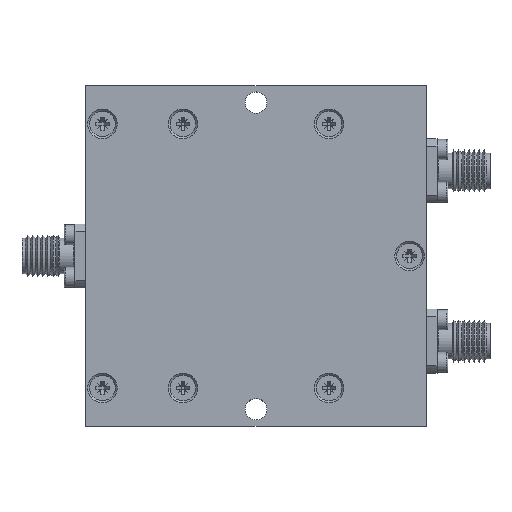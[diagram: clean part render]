
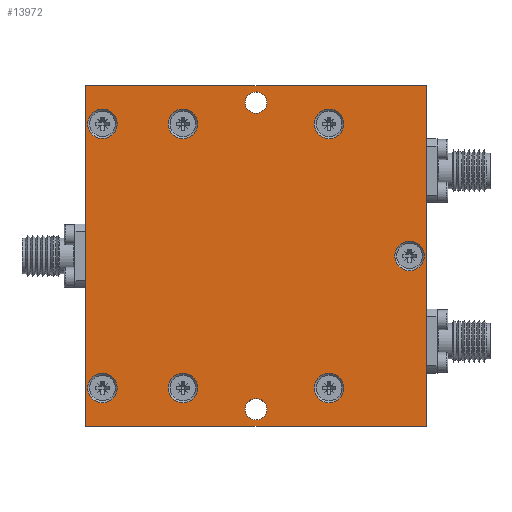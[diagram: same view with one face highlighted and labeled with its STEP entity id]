
A CAD part, top view. The second image highlights one B-rep face of the part: STEP entity #13972.
In plain terms, the highlighted planar face has unit normal (0, 0, 1).
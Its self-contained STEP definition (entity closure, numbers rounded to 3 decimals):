
#348=LINE('',#19312,#1140);
#349=LINE('',#19315,#1141);
#350=LINE('',#19317,#1142);
#351=LINE('',#19319,#1143);
#1140=VECTOR('',#16432,1000.);
#1141=VECTOR('',#16433,1000.);
#1142=VECTOR('',#16434,1000.);
#1143=VECTOR('',#16435,1000.);
#1975=PLANE('',#14830);
#3191=ORIENTED_EDGE('',*,*,#5191,.T.);
#3192=ORIENTED_EDGE('',*,*,#5192,.T.);
#3193=ORIENTED_EDGE('',*,*,#5193,.T.);
#3194=ORIENTED_EDGE('',*,*,#5194,.T.);
#3195=ORIENTED_EDGE('',*,*,#5190,.T.);
#3196=ORIENTED_EDGE('',*,*,#5188,.T.);
#3197=ORIENTED_EDGE('',*,*,#5186,.T.);
#3198=ORIENTED_EDGE('',*,*,#5184,.T.);
#3199=ORIENTED_EDGE('',*,*,#5182,.T.);
#3200=ORIENTED_EDGE('',*,*,#5180,.T.);
#3201=ORIENTED_EDGE('',*,*,#5178,.T.);
#3202=ORIENTED_EDGE('',*,*,#5195,.F.);
#3203=ORIENTED_EDGE('',*,*,#5196,.F.);
#5178=EDGE_CURVE('',#6295,#6295,#7044,.T.);
#5180=EDGE_CURVE('',#6297,#6297,#7046,.T.);
#5182=EDGE_CURVE('',#6299,#6299,#7048,.T.);
#5184=EDGE_CURVE('',#6301,#6301,#7050,.T.);
#5186=EDGE_CURVE('',#6303,#6303,#7052,.T.);
#5188=EDGE_CURVE('',#6305,#6305,#7054,.T.);
#5190=EDGE_CURVE('',#6307,#6307,#7056,.T.);
#5191=EDGE_CURVE('',#6308,#6309,#348,.T.);
#5192=EDGE_CURVE('',#6309,#6310,#349,.T.);
#5193=EDGE_CURVE('',#6310,#6311,#350,.T.);
#5194=EDGE_CURVE('',#6311,#6308,#351,.T.);
#5195=EDGE_CURVE('',#6312,#6312,#7057,.T.);
#5196=EDGE_CURVE('',#6313,#6313,#7058,.T.);
#6295=VERTEX_POINT('',#19280);
#6297=VERTEX_POINT('',#19285);
#6299=VERTEX_POINT('',#19290);
#6301=VERTEX_POINT('',#19295);
#6303=VERTEX_POINT('',#19300);
#6305=VERTEX_POINT('',#19305);
#6307=VERTEX_POINT('',#19310);
#6308=VERTEX_POINT('',#19313);
#6309=VERTEX_POINT('',#19314);
#6310=VERTEX_POINT('',#19316);
#6311=VERTEX_POINT('',#19318);
#6312=VERTEX_POINT('',#19321);
#6313=VERTEX_POINT('',#19323);
#7044=CIRCLE('',#14811,2.2);
#7046=CIRCLE('',#14814,2.2);
#7048=CIRCLE('',#14817,2.2);
#7050=CIRCLE('',#14820,2.2);
#7052=CIRCLE('',#14823,2.2);
#7054=CIRCLE('',#14826,2.2);
#7056=CIRCLE('',#14829,2.2);
#7057=CIRCLE('',#14831,1.6);
#7058=CIRCLE('',#14832,1.6);
#7625=EDGE_LOOP('',(#3191,#3192,#3193,#3194));
#7626=EDGE_LOOP('',(#3195));
#7627=EDGE_LOOP('',(#3196));
#7628=EDGE_LOOP('',(#3197));
#7629=EDGE_LOOP('',(#3198));
#7630=EDGE_LOOP('',(#3199));
#7631=EDGE_LOOP('',(#3200));
#7632=EDGE_LOOP('',(#3201));
#7633=EDGE_LOOP('',(#3202));
#7634=EDGE_LOOP('',(#3203));
#8605=FACE_BOUND('',#7625,.T.);
#8606=FACE_BOUND('',#7626,.T.);
#8607=FACE_BOUND('',#7627,.T.);
#8608=FACE_BOUND('',#7628,.T.);
#8609=FACE_BOUND('',#7629,.T.);
#8610=FACE_BOUND('',#7630,.T.);
#8611=FACE_BOUND('',#7631,.T.);
#8612=FACE_BOUND('',#7632,.T.);
#8613=FACE_BOUND('',#7633,.T.);
#8614=FACE_BOUND('',#7634,.T.);
#13972=ADVANCED_FACE('',(#8605,#8606,#8607,#8608,#8609,#8610,#8611,#8612,
#8613,#8614),#1975,.T.);
#14811=AXIS2_PLACEMENT_3D('',#19279,#16392,#16393);
#14814=AXIS2_PLACEMENT_3D('',#19284,#16398,#16399);
#14817=AXIS2_PLACEMENT_3D('',#19289,#16404,#16405);
#14820=AXIS2_PLACEMENT_3D('',#19294,#16410,#16411);
#14823=AXIS2_PLACEMENT_3D('',#19299,#16416,#16417);
#14826=AXIS2_PLACEMENT_3D('',#19304,#16422,#16423);
#14829=AXIS2_PLACEMENT_3D('',#19309,#16428,#16429);
#14830=AXIS2_PLACEMENT_3D('',#19311,#16430,#16431);
#14831=AXIS2_PLACEMENT_3D('',#19320,#16436,#16437);
#14832=AXIS2_PLACEMENT_3D('',#19322,#16438,#16439);
#16392=DIRECTION('',(0.,0.,-1.));
#16393=DIRECTION('',(0.,1.,0.));
#16398=DIRECTION('',(0.,0.,-1.));
#16399=DIRECTION('',(0.,1.,0.));
#16404=DIRECTION('',(0.,0.,-1.));
#16405=DIRECTION('',(0.,1.,0.));
#16410=DIRECTION('',(0.,0.,-1.));
#16411=DIRECTION('',(0.,1.,0.));
#16416=DIRECTION('',(0.,0.,-1.));
#16417=DIRECTION('',(0.,1.,0.));
#16422=DIRECTION('',(0.,0.,-1.));
#16423=DIRECTION('',(0.,1.,0.));
#16428=DIRECTION('',(0.,0.,-1.));
#16429=DIRECTION('',(0.,1.,0.));
#16430=DIRECTION('',(0.,0.,1.));
#16431=DIRECTION('',(1.,0.,0.));
#16432=DIRECTION('',(0.,1.,0.));
#16433=DIRECTION('',(-1.,0.,0.));
#16434=DIRECTION('',(0.,-1.,0.));
#16435=DIRECTION('',(1.,0.,0.));
#16436=DIRECTION('',(0.,0.,1.));
#16437=DIRECTION('',(1.,0.,0.));
#16438=DIRECTION('',(0.,0.,1.));
#16439=DIRECTION('',(1.,0.,0.));
#19279=CARTESIAN_POINT('',(-22.9,-19.7,6.286));
#19280=CARTESIAN_POINT('',(-22.9,-17.5,6.286));
#19284=CARTESIAN_POINT('',(-10.9,-19.7,6.286));
#19285=CARTESIAN_POINT('',(-10.9,-17.5,6.286));
#19289=CARTESIAN_POINT('',(10.9,-19.7,6.286));
#19290=CARTESIAN_POINT('',(10.9,-17.5,6.286));
#19294=CARTESIAN_POINT('',(22.9,0.,6.286));
#19295=CARTESIAN_POINT('',(22.9,2.2,6.286));
#19299=CARTESIAN_POINT('',(10.9,19.7,6.286));
#19300=CARTESIAN_POINT('',(10.9,21.9,6.286));
#19304=CARTESIAN_POINT('',(-10.9,19.7,6.286));
#19305=CARTESIAN_POINT('',(-10.9,21.9,6.286));
#19309=CARTESIAN_POINT('',(-22.9,19.7,6.286));
#19310=CARTESIAN_POINT('',(-22.9,21.9,6.286));
#19311=CARTESIAN_POINT('',(0.,0.,6.286));
#19312=CARTESIAN_POINT('',(25.4,-25.4,6.286));
#19313=CARTESIAN_POINT('',(25.4,-25.4,6.286));
#19314=CARTESIAN_POINT('',(25.4,25.4,6.286));
#19315=CARTESIAN_POINT('',(25.4,25.4,6.286));
#19316=CARTESIAN_POINT('',(-25.4,25.4,6.286));
#19317=CARTESIAN_POINT('',(-25.4,25.4,6.286));
#19318=CARTESIAN_POINT('',(-25.4,-25.4,6.286));
#19319=CARTESIAN_POINT('',(-25.4,-25.4,6.286));
#19320=CARTESIAN_POINT('',(0.,22.86,6.286));
#19321=CARTESIAN_POINT('',(1.6,22.86,6.286));
#19322=CARTESIAN_POINT('',(0.,-22.86,6.286));
#19323=CARTESIAN_POINT('',(1.6,-22.86,6.286));
